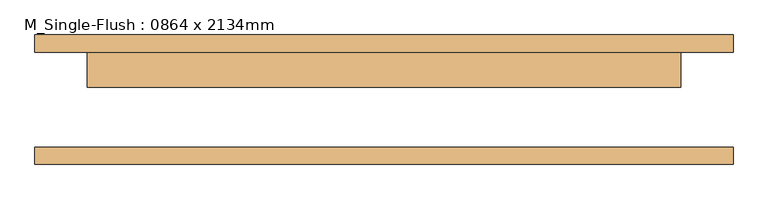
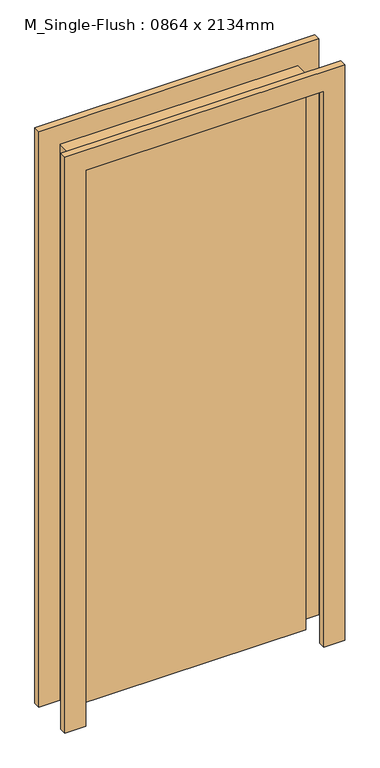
"""IFC4 building model written with IfcOpenShell, lengths in millimetres: door geometry, M_Single-Flush : 0864 x 2134mm."""

from ifc_helpers import new_model, si_unit, frame, origin, origin_with_axes, place, context, project, spatial, polyline, outline, extrude, source, transform, mapped, element, save


def m_single_flush_0864_x_2134mm_5a8c3ac0(model_context):
    return source(origin(), model_context, "Body", "SweptSolid", [
        extrude(outline(polyline([(2210.0, -508.0), (0.0, -508.0), (0.0, -432.0), (2134.0, -432.0), (2134.0, 432.0), (0.0, 432.0), (0.0, 508.0), (2210.0, 508.0), (2210.0, -508.0)])), frame((0.0, 69.25, 0.0), z_axis=(0.0, 1.0, 0.0), x_axis=(0.0, 0.0, 1.0)), (0.0, 0.0, 1.0), 25.0),
        extrude(outline(polyline([(2210.0, 508.0), (2210.0, -508.0), (0.0, -508.0), (0.0, -432.0), (2134.0, -432.0), (2134.0, 432.0), (0.0, 432.0), (0.0, 508.0), (2210.0, 508.0)])), frame((0.0, -94.25, 0.0), z_axis=(0.0, 1.0, 0.0), x_axis=(0.0, 0.0, 1.0)), (0.0, 0.0, 1.0), 25.0),
        extrude(outline(polyline([(432.0, 18.25), (-432.0, 18.25), (-432.0, 69.25), (432.0, 69.25), (432.0, 18.25)])), origin_with_axes(), (0.0, 0.0, 1.0), 2134.0),
    ])


if __name__ == "__main__":
    model = new_model("IFC4")
    model_context = context("Model", 3, world=origin())
    ifc_project = project(units=[si_unit("LENGTHUNIT", "METRE", prefix="MILLI")], contexts=[model_context])
    site = spatial("IfcSite", under=ifc_project)
    building = spatial("IfcBuilding", under=site)
    placement = place(None, origin())
    m_single_flush_0864_x_2134mm_shape = m_single_flush_0864_x_2134mm_5a8c3ac0(model_context)
    element("IfcDoor", 1, ObjectType="M_Single-Flush : 0864 x 2134mm", at=placement, inside=building, context=model_context, shape_type="MappedRepresentation", body=[
        mapped(m_single_flush_0864_x_2134mm_shape, transform((0.0, 0.0, 0.0), x_axis=(1.0, 0.0, 0.0), y_axis=(0.0, 1.0, 0.0), z_axis=(0.0, 0.0, 1.0))),
    ])
    save(model, "model.ifc")
